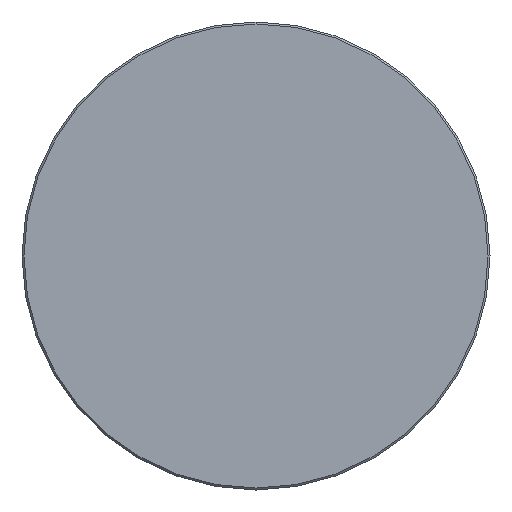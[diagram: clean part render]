
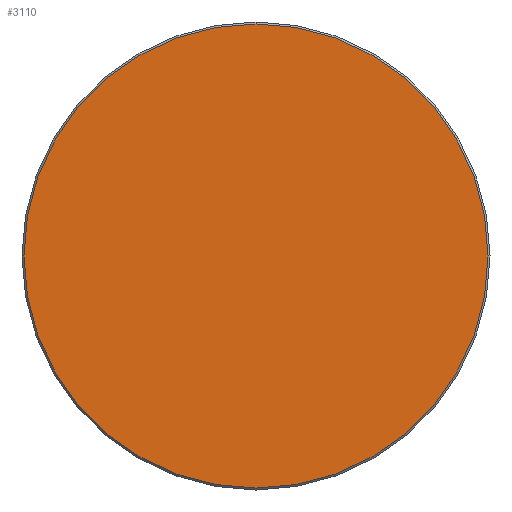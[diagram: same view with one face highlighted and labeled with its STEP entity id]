
A CAD part, left-side view. The second image highlights one B-rep face of the part: STEP entity #3110.
In plain terms, the highlighted planar face has unit normal (-1, 0, 0).
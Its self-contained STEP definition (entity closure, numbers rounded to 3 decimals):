
#374 = DIRECTION ( 'NONE',  ( 0., 1., 0. ) ) ;
#618 = FACE_OUTER_BOUND ( 'NONE', #1000, .T. ) ;
#653 = ORIENTED_EDGE ( 'NONE', *, *, #1505, .T. ) ;
#1000 = EDGE_LOOP ( 'NONE', ( #653, #4676 ) ) ;
#1354 = DIRECTION ( 'NONE',  ( -1., 0., 0. ) ) ;
#1505 = EDGE_CURVE ( 'NONE', #5959, #6096, #3456, .T. ) ;
#1741 = CARTESIAN_POINT ( 'NONE',  ( 210.525, 36.997, 0. ) ) ;
#2753 = DIRECTION ( 'NONE',  ( 1., 0., 0. ) ) ;
#3110 = ADVANCED_FACE ( 'NONE', ( #618 ), #3635, .F. ) ;
#3129 = DIRECTION ( 'NONE',  ( 0., 1., 0. ) ) ;
#3456 = CIRCLE ( 'NONE', #4322, 35.7 ) ;
#3564 = CARTESIAN_POINT ( 'NONE',  ( 210.525, 35.047, 0. ) ) ;
#3635 = PLANE ( 'NONE',  #4735 ) ;
#4080 = CARTESIAN_POINT ( 'NONE',  ( 210.525, 1.297, 0. ) ) ;
#4123 = DIRECTION ( 'NONE',  ( -1., 0., 0. ) ) ;
#4222 = CARTESIAN_POINT ( 'NONE',  ( 210.525, -34.403, 0. ) ) ;
#4322 = AXIS2_PLACEMENT_3D ( 'NONE', #4080, #4123, #3129 ) ;
#4527 = AXIS2_PLACEMENT_3D ( 'NONE', #5991, #1354, #5543 ) ;
#4676 = ORIENTED_EDGE ( 'NONE', *, *, #5394, .T. ) ;
#4735 = AXIS2_PLACEMENT_3D ( 'NONE', #3564, #2753, #374 ) ;
#4867 = CIRCLE ( 'NONE', #4527, 35.7 ) ;
#5394 = EDGE_CURVE ( 'NONE', #6096, #5959, #4867, .T. ) ;
#5543 = DIRECTION ( 'NONE',  ( 0., 1., 0. ) ) ;
#5959 = VERTEX_POINT ( 'NONE', #1741 ) ;
#5991 = CARTESIAN_POINT ( 'NONE',  ( 210.525, 1.297, 0. ) ) ;
#6096 = VERTEX_POINT ( 'NONE', #4222 ) ;
